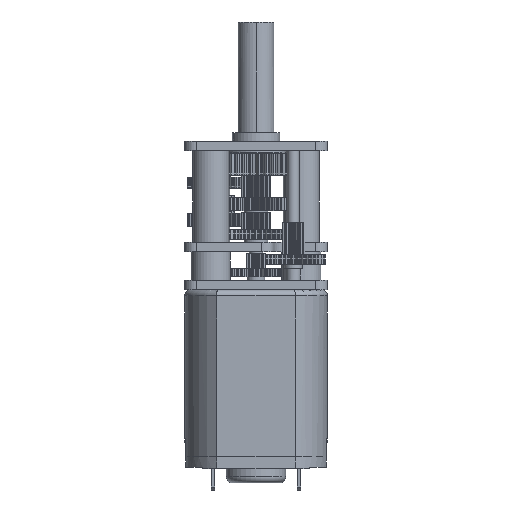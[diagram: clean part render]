
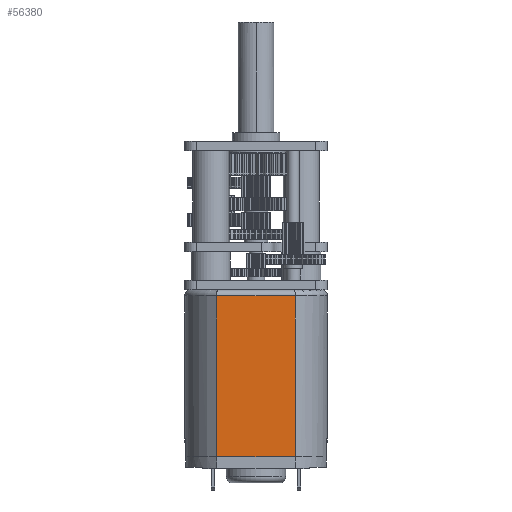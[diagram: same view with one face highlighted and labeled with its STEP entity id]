
A CAD part, front view. The second image highlights one B-rep face of the part: STEP entity #56380.
In plain terms, the highlighted planar face has unit normal (0, -1, 0).
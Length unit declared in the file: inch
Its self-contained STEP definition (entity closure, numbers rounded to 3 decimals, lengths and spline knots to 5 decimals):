
#8487 = DIRECTION ( 'NONE',  ( 0., 0., 1. ) ) ;
#26840 = VERTEX_POINT ( 'NONE', #95593 ) ;
#28554 = CARTESIAN_POINT ( 'NONE',  ( -0.04353, -0.19685, -0.55118 ) ) ;
#32909 = DIRECTION ( 'NONE',  ( 1., 0., 0. ) ) ;
#38444 = DIRECTION ( 'NONE',  ( -1., 0., 0. ) ) ;
#49950 = DIRECTION ( 'NONE',  ( 0., 0., 1. ) ) ;
#53049 = ORIENTED_EDGE ( 'NONE', *, *, #101844, .T. ) ;
#55348 = CARTESIAN_POINT ( 'NONE',  ( 0.13057, -0.19683, -0.55118 ) ) ;
#56380 = ADVANCED_FACE ( 'NONE', ( #120915 ), #67059, .T. ) ;
#57076 = AXIS2_PLACEMENT_3D ( 'NONE', #99249, #154867, #32909 ) ;
#57716 = VERTEX_POINT ( 'NONE', #159883 ) ;
#59721 = ORIENTED_EDGE ( 'NONE', *, *, #155043, .T. ) ;
#67059 = PLANE ( 'NONE',  #57076 ) ;
#78503 = CARTESIAN_POINT ( 'NONE',  ( 0.13058, -0.19685, -0.55118 ) ) ;
#79064 = VECTOR ( 'NONE', #49950, 39.37008 ) ;
#80969 = CARTESIAN_POINT ( 'NONE',  ( -0.13057, -0.19683, -0.55118 ) ) ;
#83137 = CARTESIAN_POINT ( 'NONE',  ( 0.04353, -0.19685, -0.55118 ) ) ;
#86402 = ORIENTED_EDGE ( 'NONE', *, *, #155201, .T. ) ;
#88255 = LINE ( 'NONE', #157413, #133496 ) ;
#95593 = CARTESIAN_POINT ( 'NONE',  ( 0.13058, -0.19685, -0.01969 ) ) ;
#99249 = CARTESIAN_POINT ( 'NONE',  ( 0., -0.19685, -0.55118 ) ) ;
#99493 = EDGE_LOOP ( 'NONE', ( #86402, #53049, #120092, #59721 ) ) ;
#101844 = EDGE_CURVE ( 'NONE', #26840, #57716, #106487, .T. ) ;
#106487 = LINE ( 'NONE', #136979, #119439 ) ;
#107007 = VERTEX_POINT ( 'NONE', #55348 ) ;
#119439 = VECTOR ( 'NONE', #38444, 39.37008 ) ;
#120092 = ORIENTED_EDGE ( 'NONE', *, *, #127532, .F. ) ;
#120915 = FACE_OUTER_BOUND ( 'NONE', #99493, .T. ) ;
#127532 = EDGE_CURVE ( 'NONE', #159565, #57716, #88255, .T. ) ;
#128733 = B_SPLINE_CURVE_WITH_KNOTS ( 'NONE', 3,
 ( #151398, #28554, #83137, #170240 ),
 .UNSPECIFIED., .F., .F.,
 ( 4, 4 ),
 ( 0., 1. ),
 .UNSPECIFIED. ) ;
#133496 = VECTOR ( 'NONE', #8487, 39.37008 ) ;
#136979 = CARTESIAN_POINT ( 'NONE',  ( 0., -0.19685, -0.01969 ) ) ;
#151398 = CARTESIAN_POINT ( 'NONE',  ( -0.13057, -0.19683, -0.55118 ) ) ;
#154867 = DIRECTION ( 'NONE',  ( 0., -1., 0. ) ) ;
#155043 = EDGE_CURVE ( 'NONE', #159565, #107007, #128733, .T. ) ;
#155201 = EDGE_CURVE ( 'NONE', #107007, #26840, #175510, .T. ) ;
#157413 = CARTESIAN_POINT ( 'NONE',  ( -0.13058, -0.19685, -0.55118 ) ) ;
#159565 = VERTEX_POINT ( 'NONE', #80969 ) ;
#159883 = CARTESIAN_POINT ( 'NONE',  ( -0.13058, -0.19685, -0.01969 ) ) ;
#170240 = CARTESIAN_POINT ( 'NONE',  ( 0.13057, -0.19683, -0.55118 ) ) ;
#175510 = LINE ( 'NONE', #78503, #79064 ) ;
